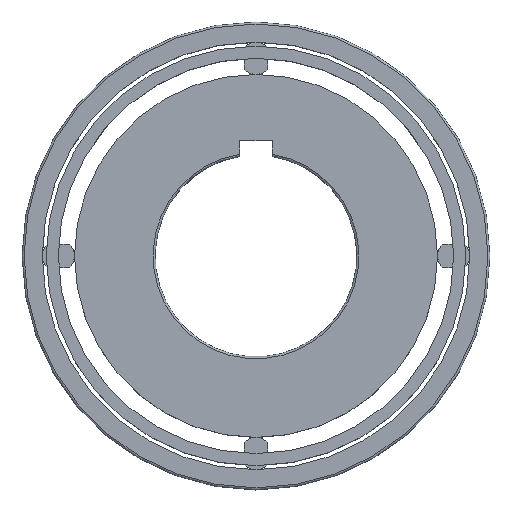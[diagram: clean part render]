
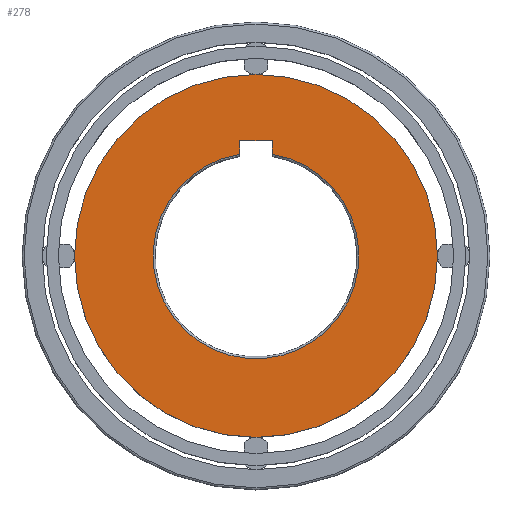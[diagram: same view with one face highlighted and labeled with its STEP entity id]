
A CAD part, top view. The second image highlights one B-rep face of the part: STEP entity #278.
In plain terms, the highlighted planar face has unit normal (0, 0, 1).
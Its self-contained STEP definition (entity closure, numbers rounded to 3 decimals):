
#278=ADVANCED_FACE('',(#532,#533),#341,.T.);
#341=PLANE('',#1199);
#384=LINE('',#1624,#458);
#385=LINE('',#1627,#459);
#386=LINE('',#1631,#460);
#458=VECTOR('',#1317,1.);
#459=VECTOR('',#1318,1.);
#460=VECTOR('',#1321,1.);
#532=FACE_BOUND('',#574,.T.);
#533=FACE_BOUND('',#575,.T.);
#574=EDGE_LOOP('',(#662));
#575=EDGE_LOOP('',(#663,#664,#665,#666));
#662=ORIENTED_EDGE('',*,*,#1014,.T.);
#663=ORIENTED_EDGE('',*,*,#1015,.T.);
#664=ORIENTED_EDGE('',*,*,#1016,.T.);
#665=ORIENTED_EDGE('',*,*,#1017,.T.);
#666=ORIENTED_EDGE('',*,*,#1018,.T.);
#922=VERTEX_POINT('',#1623);
#923=VERTEX_POINT('',#1625);
#924=VERTEX_POINT('',#1626);
#925=VERTEX_POINT('',#1628);
#926=VERTEX_POINT('',#1630);
#1014=EDGE_CURVE('',#922,#922,#1144,.T.);
#1015=EDGE_CURVE('',#923,#924,#384,.T.);
#1016=EDGE_CURVE('',#924,#925,#385,.T.);
#1017=EDGE_CURVE('',#925,#926,#1145,.T.);
#1018=EDGE_CURVE('',#926,#923,#386,.T.);
#1144=CIRCLE('',#1197,22.5);
#1145=CIRCLE('',#1198,12.75);
#1197=AXIS2_PLACEMENT_3D('',#1622,#1315,#1316);
#1198=AXIS2_PLACEMENT_3D('',#1629,#1319,#1320);
#1199=AXIS2_PLACEMENT_3D('',#1632,#1322,#1323);
#1315=DIRECTION('',(0.,0.,1.));
#1316=DIRECTION('',(1.,0.,0.));
#1317=DIRECTION('',(1.,0.,0.));
#1318=DIRECTION('',(0.,-1.,0.));
#1319=DIRECTION('',(0.,0.,-1.));
#1320=DIRECTION('',(1.,0.,0.));
#1321=DIRECTION('',(0.,1.,0.));
#1322=DIRECTION('',(0.,0.,1.));
#1323=DIRECTION('',(1.,0.,0.));
#1622=CARTESIAN_POINT('',(0.,0.,12.));
#1623=CARTESIAN_POINT('',(22.5,0.,12.));
#1624=CARTESIAN_POINT('',(-2.,14.3,12.));
#1625=CARTESIAN_POINT('',(-2.,14.3,12.));
#1626=CARTESIAN_POINT('',(2.,14.3,12.));
#1627=CARTESIAN_POINT('',(2.,14.3,12.));
#1628=CARTESIAN_POINT('',(2.,12.592,12.));
#1629=CARTESIAN_POINT('',(0.,0.,12.));
#1630=CARTESIAN_POINT('',(-2.,12.592,12.));
#1631=CARTESIAN_POINT('',(-2.,10.7,12.));
#1632=CARTESIAN_POINT('',(0.,0.,12.));
